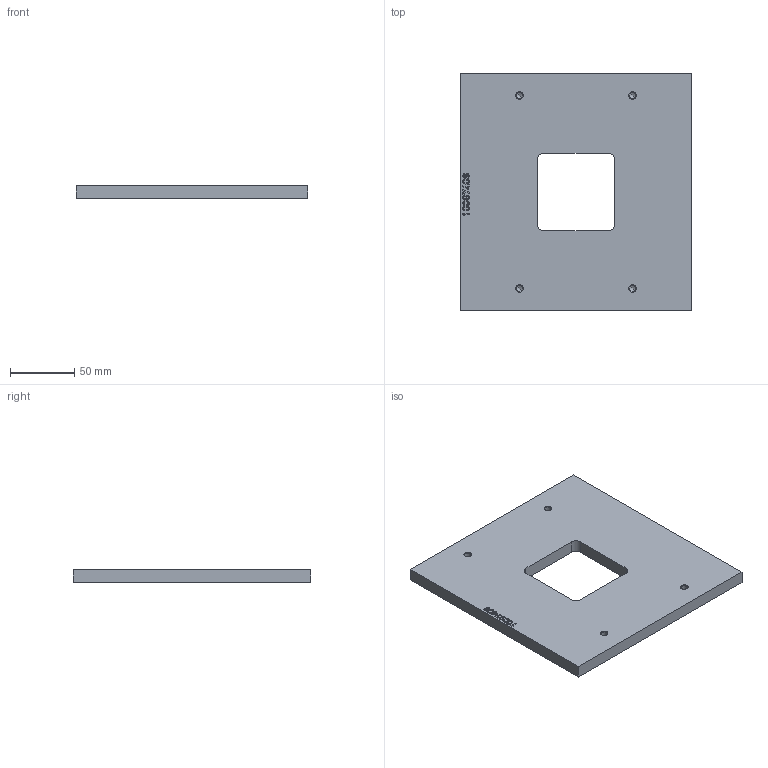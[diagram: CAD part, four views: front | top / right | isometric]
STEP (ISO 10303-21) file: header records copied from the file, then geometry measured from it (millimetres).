
FILE_DESCRIPTION(('CATIA V5 STEP 214'),'2;1');
FILE_NAME('C:\Temp\ddxv6\152461\Adapter MD.stp','2012-02-16T11:41:40+00:00',('Leopold Kostal'),('Kostal GmbH'),'CATIA Version 5 Release 19 SP 8 (IN-10)','CATIA V5 STEP AP214','none');
FILE_SCHEMA(('AUTOMOTIVE_DESIGN { 1 0 10303 214 1 1 1 1 }'));
Length unit declared in the file: millimetre
Products named in the file (1): 10097409-1-0000B
Bounding box: 180 x 185 x 10 mm (x, y, z)
Volume: 296542.1 mm3; surface area: 69599.6 mm2
Topology: 1 solids, 1 shells, 176 faces, 468 edges, 304 vertices
Faces by surface type: plane 78, extrusion 70, cone 16, cylinder 12
Entity records: 5369 total; most frequent: CARTESIAN_POINT 1813, ORIENTED_EDGE 918, EDGE_CURVE 459, DIRECTION 442, VERTEX_POINT 302, VECTOR 266, LINE 196, EDGE_LOOP 195
